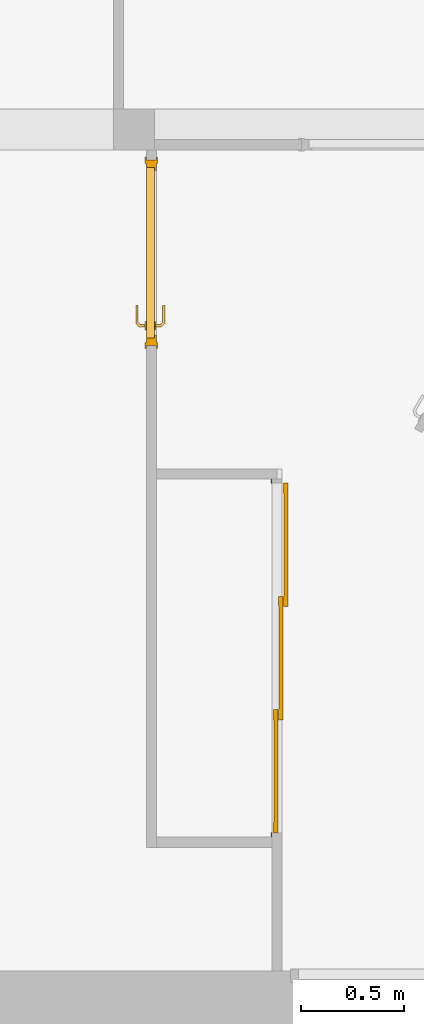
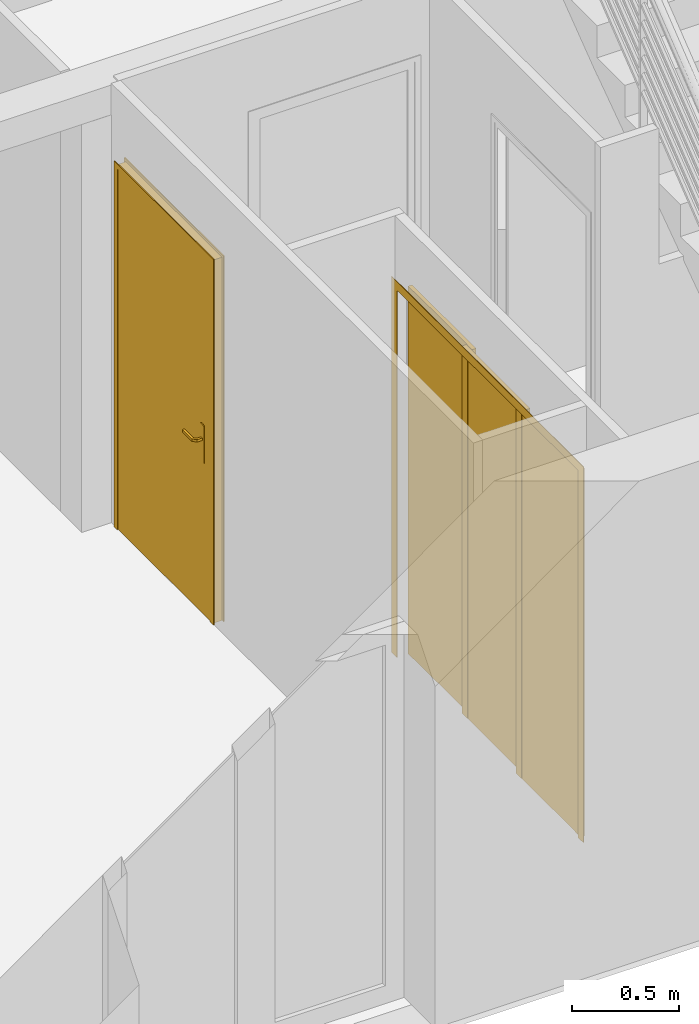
# One storey, part 10 of 13: 2 doors.
"""IFC2X3 building model written with IfcOpenShell, lengths in millimetres."""

from ifc_helpers import new_model, entity, si_unit, converted_unit, direction, frame, origin, origin_with_axes, place, context, project, spatial, faceted_brep, element, save


model = new_model("IFC2X3")

# Units and contexts
model_context = context("Model", 3, precision=1e-05, world=origin(), true_north=direction((0.0, 1.0, 0.0)))
ifc_project = project(units=[si_unit("LENGTHUNIT", "METRE", prefix="MILLI"), si_unit("AREAUNIT", "SQUARE_METRE"), si_unit("VOLUMEUNIT", "CUBIC_METRE"), converted_unit("PLANEANGLEUNIT", "DEGREE", entity("IfcPlaneAngleMeasure", 0.01745), si_unit("PLANEANGLEUNIT", "RADIAN"), dimensions=[0, 0, 0, 0, 0, 0, 0]), si_unit("SOLIDANGLEUNIT", "STERADIAN"), si_unit("MASSUNIT", "GRAM"), si_unit("TIMEUNIT", "SECOND"), si_unit("THERMODYNAMICTEMPERATUREUNIT", "DEGREE_CELSIUS"), si_unit("LUMINOUSINTENSITYUNIT", "LUMEN")], contexts=[model_context])

# Site, building, storey
placement = place(None, origin_with_axes())
site_placement = place(placement, frame((11636.08881703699, 2815.7442167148, 4.768371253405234e-06), z_axis=(0.0, 0.0, 1.0), x_axis=(1.0, 0.0, 0.0)))
site = spatial("IfcSite", under=ifc_project, at=site_placement, Name="Surface", CompositionType="ELEMENT")
building_placement = place(placement, origin_with_axes())
building = spatial("IfcBuilding", under=site, at=building_placement, Name="Default Building", CompositionType="ELEMENT")
storey_placement = place(building_placement, origin_with_axes())
storey = spatial("IfcBuildingStorey", under=building, at=storey_placement, Name="Rez de chaussée", CompositionType="ELEMENT", Elevation=0.0)

# Doors
door_1_placement = place(storey_placement, frame((11636.08881703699, 2815.7442167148, 4.768371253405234e-06), z_axis=(0.0, 0.0, 1.0), x_axis=(1.0, 0.0, 0.0)))
element("IfcDoor", 1, at=door_1_placement, inside=storey, Name="IfcDoor - Int. Simple:PP (0.83m x 2.04m)", context=model_context, shape_type="Brep", body=[
    faceted_brep([(-1651.088818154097, 579.2557809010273, 4.291534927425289e-05), (-1646.088819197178, 549.2557797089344, 4.291534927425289e-05), (-1651.088818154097, 549.2557797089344, 4.291534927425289e-05), (-1646.088819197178, 579.2557809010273, 4.291534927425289e-05), (-1651.088818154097, 1449.255785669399, 4.291534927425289e-05), (-1646.088819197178, 1479.255786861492, 4.291534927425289e-05), (-1646.088819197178, 1449.255785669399, 4.291534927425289e-05), (-1651.088818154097, 1479.255786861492, 4.291534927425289e-05), (-1651.088818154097, 579.2557809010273, 2059.99998569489), (-1646.088819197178, 1449.255785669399, 2059.99998569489), (-1646.088819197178, 579.2557809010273, 2059.99998569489), (-1651.088818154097, 1449.255785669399, 2059.99998569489), (-1646.088819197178, 549.2557797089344, 2089.999957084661), (-1651.088818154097, 1479.255786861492, 2089.999957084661), (-1651.088818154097, 549.2557797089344, 2089.999957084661), (-1646.088819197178, 1479.255786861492, 2089.999957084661), (-1596.08881845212, 579.2557809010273, 2059.99998569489), (-1591.088819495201, 1449.255785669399, 2059.99998569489), (-1591.088819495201, 579.2557809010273, 2059.99998569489), (-1596.08881845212, 1449.255785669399, 2059.99998569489), (-1591.088819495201, 549.2557797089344, 2089.999957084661), (-1596.08881845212, 1479.255786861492, 2089.999957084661), (-1596.08881845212, 549.2557797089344, 2089.999957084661), (-1591.088819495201, 1479.255786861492, 2089.999957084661), (-1596.08881845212, 1479.255786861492, 4.291534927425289e-05), (-1591.088819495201, 1479.255786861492, 4.291534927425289e-05), (-1591.088819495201, 1449.255785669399, 4.291534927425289e-05), (-1596.08881845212, 1449.255785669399, 4.291534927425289e-05), (-1596.08881845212, 579.2557809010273, 4.291534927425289e-05), (-1591.088819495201, 579.2557809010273, 4.291534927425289e-05), (-1591.088819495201, 549.2557797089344, 4.291534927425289e-05), (-1596.08881845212, 549.2557797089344, 4.291534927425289e-05), (-1646.088819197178, 599.2557916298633, 2040.000004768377), (-1606.088819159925, 1429.255774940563, 2040.000004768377), (-1606.088819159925, 599.2557916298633, 2040.000004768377), (-1646.088819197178, 1429.255774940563, 2040.000004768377), (-1606.088819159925, 614.2557773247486, 2025.000019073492), (-1596.08881845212, 1414.255789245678, 2025.000019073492), (-1596.08881845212, 614.2557773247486, 2025.000019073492), (-1606.088819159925, 1414.255789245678, 2025.000019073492), (-1596.08881845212, 564.255795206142, 2074.999971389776), (-1646.088819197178, 1464.255771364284, 2074.999971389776), (-1646.088819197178, 564.255795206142, 2074.999971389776), (-1596.08881845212, 1464.255771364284, 2074.999971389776), (-1606.088819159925, 1429.255774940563, 4.291534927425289e-05), (-1646.088819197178, 1429.255774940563, 4.291534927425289e-05), (-1596.08881845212, 1414.255789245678, 4.291534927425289e-05), (-1606.088819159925, 1414.255789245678, 4.291534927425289e-05), (-1596.08881845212, 1464.255771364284, 4.291534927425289e-05), (-1646.088819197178, 1464.255771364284, 4.291534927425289e-05), (-1646.088819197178, 599.2557916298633, 4.291534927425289e-05), (-1646.088819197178, 564.255795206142, 4.291534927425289e-05), (-1606.088819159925, 599.2557916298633, 4.291534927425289e-05), (-1606.088819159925, 614.2557773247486, 4.291534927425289e-05), (-1596.08881845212, 614.2557773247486, 4.291534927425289e-05), (-1596.08881845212, 564.255795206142, 4.291534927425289e-05), (-1606.088819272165, 599.2557916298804, 2039.999980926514), (-1646.088818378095, 599.2557916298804, 1.907348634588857e-05), (-1606.088819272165, 599.2557916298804, 1.907348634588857e-05), (-1646.088818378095, 599.2557916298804, 2039.999980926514), (-1646.088818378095, 1429.25577494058, 1.907348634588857e-05), (-1606.088819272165, 1429.25577494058, 1.907348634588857e-05), (-1646.088818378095, 1429.25577494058, 2039.999980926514), (-1606.088819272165, 1429.25577494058, 2039.999980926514), (-1563.143627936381, 675.0946902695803, 992.2195583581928), (-1561.118336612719, 717.1981279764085, 992.1213131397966), (-1559.093037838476, 673.4168772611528, 992.2195583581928), (-1555.118331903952, 711.7009871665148, 992.99999922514), (-1567.118333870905, 718.0213035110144, 992.99999922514), (-1563.143627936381, 759.3015656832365, 992.2195583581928), (-1559.093037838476, 759.3015656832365, 992.2195583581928), (-1567.118333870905, 759.3015656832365, 992.99999922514), (-1567.118333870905, 676.7410655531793, 992.99999922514), (-1555.118331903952, 671.7705019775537, 992.99999922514), (-1555.118331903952, 759.3015656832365, 992.99999922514), (-1555.118331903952, 671.7705019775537, 1007.000001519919), (-1555.118331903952, 711.7009890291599, 1007.000001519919), (-1555.118331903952, 759.3015656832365, 1007.000001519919), (-1563.143627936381, 759.3015656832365, 1007.780442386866), (-1561.118336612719, 717.1981279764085, 1007.878685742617), (-1559.093037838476, 759.3015656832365, 1007.780442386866), (-1567.118333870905, 718.0213165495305, 1007.000001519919), (-1563.143627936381, 675.0946902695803, 1007.780442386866), (-1559.093037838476, 673.4168772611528, 1007.780442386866), (-1567.118333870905, 759.3015656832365, 1007.000001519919), (-1567.118333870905, 676.7410655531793, 1007.000001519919), (-1576.957239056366, 661.2810828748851, 992.2195583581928), (-1578.60361247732, 665.2557850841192, 992.99999922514), (-1573.63305076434, 653.2557831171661, 992.99999922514), (-1575.279427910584, 657.2304853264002, 992.2195583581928), (-1573.63305076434, 653.2557831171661, 1007.000001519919), (-1575.279427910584, 657.2304853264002, 1007.780442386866), (-1578.60361247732, 665.2557850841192, 1007.000001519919), (-1576.957239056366, 661.2810828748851, 1007.780442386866), (-1601.088818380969, 661.2810828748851, 992.2195583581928), (-1601.088818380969, 665.2557850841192, 992.99999922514), (-1601.088818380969, 657.2304853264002, 992.2195583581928), (-1601.088818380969, 653.2557831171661, 992.99999922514), (-1601.088818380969, 653.2557831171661, 1007.000001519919), (-1601.088818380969, 657.2304853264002, 1007.780442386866), (-1601.088818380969, 661.2810828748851, 1007.780442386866), (-1601.088818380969, 665.2557850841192, 1007.000001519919), (-1697.116980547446, 759.2744232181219, 992.99999922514), (-1697.116980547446, 671.632994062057, 1007.000001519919), (-1697.116980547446, 759.2744232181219, 1007.000001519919), (-1697.116980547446, 711.56347273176, 992.99999922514), (-1697.116980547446, 671.632994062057, 992.99999922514), (-1689.091684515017, 759.2744232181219, 992.2195583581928), (-1691.116983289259, 717.1158027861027, 992.1213131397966), (-1693.142274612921, 759.2744232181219, 992.2195583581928), (-1685.116978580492, 717.9389894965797, 992.99999922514), (-1689.091684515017, 674.9571804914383, 992.2195583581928), (-1693.142274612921, 673.2793693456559, 992.2195583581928), (-1685.116978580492, 759.2744232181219, 992.99999922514), (-1685.116978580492, 676.6035557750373, 992.99999922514), (-1685.116978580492, 759.2744232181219, 1007.000001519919), (-1685.116978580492, 717.9389894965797, 1007.000001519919), (-1685.116978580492, 676.6035557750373, 1007.000001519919), (-1689.091684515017, 674.9571804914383, 1007.780442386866), (-1691.116975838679, 717.1158027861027, 1007.878685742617), (-1693.142274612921, 673.2793693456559, 1007.780442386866), (-1697.116980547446, 711.5634801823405, 1007.000001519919), (-1689.091684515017, 759.2744232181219, 1007.780442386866), (-1693.142274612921, 759.2744232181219, 1007.780442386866), (-1678.739769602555, 653.2557831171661, 992.99999922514), (-1678.739769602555, 653.2557831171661, 1007.000001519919), (-1677.093396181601, 657.2304853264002, 992.2195583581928), (-1673.769207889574, 665.2557850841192, 992.99999922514), (-1675.415581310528, 661.2810828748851, 992.2195583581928), (-1673.769207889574, 665.2557850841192, 1007.000001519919), (-1675.415581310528, 661.2810828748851, 1007.780442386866), (-1677.093396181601, 657.2304853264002, 1007.780442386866), (-1651.088819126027, 653.2557831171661, 992.99999922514), (-1651.088819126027, 653.2557831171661, 1007.000001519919), (-1651.088819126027, 657.2304853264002, 992.2195583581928), (-1651.088819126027, 661.2810828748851, 992.2195583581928), (-1651.088819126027, 665.2557850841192, 992.99999922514), (-1651.088819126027, 665.2557850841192, 1007.000001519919), (-1651.088819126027, 661.2810828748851, 1007.780442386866), (-1651.088819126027, 657.2304853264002, 1007.780442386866), (-1601.088818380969, 679.2557836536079, 870.0000032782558), (-1606.088819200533, 679.2557836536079, 1079.999996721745), (-1601.088818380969, 679.2557836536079, 1079.999996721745), (-1606.088819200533, 679.2557836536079, 870.0000032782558), (-1606.088819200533, 669.6085446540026, 866.0039812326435), (-1601.088818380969, 669.6085446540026, 866.0039812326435), (-1601.088818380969, 659.2557841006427, 864.6410167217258), (-1606.088819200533, 659.2557841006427, 864.6410167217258), (-1601.088818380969, 648.9030198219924, 866.0039812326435), (-1606.088819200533, 648.9030198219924, 866.0039812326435), (-1601.088818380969, 639.2557845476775, 870.0000032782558), (-1606.088819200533, 639.2557845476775, 870.0000032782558), (-1606.088819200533, 639.2557845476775, 1079.999996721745), (-1601.088818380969, 639.2557845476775, 1079.999996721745), (-1606.088819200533, 648.9030198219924, 1083.996018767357), (-1601.088818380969, 648.9030198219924, 1083.996018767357), (-1601.088818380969, 659.2557841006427, 1085.358983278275), (-1606.088819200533, 659.2557841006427, 1085.358983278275), (-1601.088818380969, 669.6085446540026, 1083.996018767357), (-1606.088819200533, 669.6085446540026, 1083.996018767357), (-1646.088818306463, 639.2557845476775, 870.0000032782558), (-1651.088819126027, 639.2557845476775, 1079.999996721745), (-1651.088819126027, 639.2557845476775, 870.0000032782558), (-1646.088818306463, 639.2557845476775, 1079.999996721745), (-1651.088819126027, 648.9030198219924, 1083.996018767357), (-1646.088818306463, 648.9030198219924, 1083.996018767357), (-1646.088818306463, 659.2557841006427, 1085.358983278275), (-1651.088819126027, 659.2557841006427, 1085.358983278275), (-1646.088818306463, 669.6085446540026, 1083.996018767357), (-1651.088819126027, 669.6085446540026, 1083.996018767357), (-1646.088818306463, 679.2557836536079, 1079.999996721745), (-1651.088819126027, 679.2557836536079, 1079.999996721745), (-1646.088818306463, 679.2557836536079, 870.0000032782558), (-1651.088819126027, 679.2557836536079, 870.0000032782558), (-1651.088819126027, 669.6085446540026, 866.0039812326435), (-1646.088818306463, 669.6085446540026, 866.0039812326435), (-1646.088818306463, 659.2557841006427, 864.6410167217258), (-1651.088819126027, 659.2557841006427, 864.6410167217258), (-1646.088818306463, 648.9030198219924, 866.0039812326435), (-1651.088819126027, 648.9030198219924, 866.0039812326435)], [[[0, 1, 2]], [[0, 3, 1]], [[4, 5, 6]], [[4, 7, 5]], [[8, 9, 10]], [[8, 11, 9]], [[12, 13, 14]], [[12, 15, 13]], [[15, 7, 13]], [[15, 5, 7]], [[11, 6, 9]], [[11, 4, 6]], [[0, 10, 3]], [[0, 8, 10]], [[12, 10, 15]], [[1, 10, 12]], [[10, 1, 3]], [[9, 15, 10]], [[6, 15, 9]], [[15, 6, 5]], [[1, 14, 2]], [[1, 12, 14]], [[13, 11, 14]], [[7, 11, 13]], [[11, 7, 4]], [[8, 14, 11]], [[0, 14, 8]], [[14, 0, 2]], [[16, 17, 18]], [[16, 19, 17]], [[20, 21, 22]], [[20, 23, 21]], [[23, 24, 21]], [[23, 25, 24]], [[19, 26, 17]], [[19, 27, 26]], [[27, 25, 26]], [[27, 24, 25]], [[28, 18, 29]], [[28, 16, 18]], [[20, 18, 23]], [[30, 18, 20]], [[18, 30, 29]], [[17, 23, 18]], [[26, 23, 17]], [[23, 26, 25]], [[30, 22, 31]], [[30, 20, 22]], [[21, 19, 22]], [[24, 19, 21]], [[19, 24, 27]], [[16, 22, 19]], [[28, 22, 16]], [[22, 28, 31]], [[28, 30, 31]], [[28, 29, 30]], [[32, 33, 34]], [[32, 35, 33]], [[36, 37, 38]], [[36, 39, 37]], [[40, 41, 42]], [[40, 43, 41]], [[35, 44, 33]], [[35, 45, 44]], [[39, 46, 37]], [[39, 47, 46]], [[47, 48, 46]], [[44, 48, 47]], [[45, 48, 44]], [[48, 45, 49]], [[43, 49, 41]], [[43, 48, 49]], [[41, 35, 42]], [[49, 35, 41]], [[35, 49, 45]], [[32, 42, 35]], [[50, 42, 32]], [[42, 50, 51]], [[50, 34, 52]], [[50, 32, 34]], [[33, 39, 34]], [[44, 39, 33]], [[39, 44, 47]], [[36, 34, 39]], [[53, 34, 36]], [[34, 53, 52]], [[53, 38, 54]], [[53, 36, 38]], [[40, 38, 43]], [[55, 38, 40]], [[38, 55, 54]], [[37, 43, 38]], [[46, 43, 37]], [[43, 46, 48]], [[55, 42, 51]], [[55, 40, 42]], [[54, 52, 53]], [[55, 52, 54]], [[55, 50, 52]], [[50, 55, 51]], [[56, 57, 58]], [[56, 59, 57]], [[58, 60, 61]], [[58, 57, 60]], [[61, 62, 63]], [[61, 60, 62]], [[63, 59, 56]], [[63, 62, 59]], [[59, 60, 57]], [[59, 62, 60]], [[56, 61, 63]], [[56, 58, 61]], [[64, 65, 66]], [[65, 67, 66]], [[65, 68, 69]], [[65, 69, 70]], [[71, 69, 68]], [[68, 64, 72]], [[64, 68, 65]], [[67, 73, 66]], [[67, 70, 74]], [[65, 70, 67]], [[67, 75, 73]], [[74, 75, 67]], [[74, 76, 75]], [[76, 74, 77]], [[78, 79, 80]], [[79, 81, 82]], [[79, 82, 83]], [[79, 83, 76]], [[76, 83, 75]], [[80, 76, 77]], [[78, 84, 81]], [[82, 81, 85]], [[80, 79, 76]], [[79, 78, 81]], [[84, 72, 85]], [[84, 68, 72]], [[68, 84, 71]], [[70, 77, 74]], [[70, 80, 77]], [[69, 80, 70]], [[69, 78, 80]], [[69, 84, 78]], [[84, 69, 71]], [[86, 72, 64]], [[86, 87, 72]], [[88, 66, 73]], [[88, 89, 66]], [[73, 90, 88]], [[73, 75, 90]], [[90, 83, 91]], [[90, 75, 83]], [[92, 82, 85]], [[92, 93, 82]], [[85, 87, 92]], [[85, 72, 87]], [[94, 87, 86]], [[94, 95, 87]], [[66, 86, 64]], [[86, 66, 89]], [[89, 94, 86]], [[94, 89, 96]], [[97, 89, 88]], [[97, 96, 89]], [[90, 97, 88]], [[90, 98, 97]], [[98, 91, 99]], [[98, 90, 91]], [[91, 100, 99]], [[91, 93, 100]], [[83, 93, 91]], [[93, 83, 82]], [[100, 92, 101]], [[100, 93, 92]], [[92, 95, 101]], [[92, 87, 95]], [[98, 96, 97]], [[99, 96, 98]], [[99, 94, 96]], [[100, 94, 99]], [[100, 95, 94]], [[95, 100, 101]], [[102, 103, 104]], [[105, 103, 102]], [[103, 105, 106]], [[107, 108, 109]], [[108, 110, 111]], [[108, 111, 112]], [[108, 112, 105]], [[105, 112, 106]], [[109, 105, 102]], [[107, 113, 110]], [[111, 110, 114]], [[109, 108, 105]], [[108, 107, 110]], [[115, 114, 113]], [[116, 114, 115]], [[114, 116, 117]], [[118, 119, 120]], [[119, 121, 120]], [[119, 116, 122]], [[119, 122, 123]], [[115, 122, 116]], [[116, 118, 117]], [[118, 116, 119]], [[121, 103, 120]], [[121, 123, 104]], [[119, 123, 121]], [[113, 122, 115]], [[107, 122, 113]], [[107, 123, 122]], [[109, 123, 107]], [[109, 104, 123]], [[104, 109, 102]], [[103, 124, 125]], [[103, 106, 124]], [[126, 106, 112]], [[126, 124, 106]], [[127, 111, 114]], [[127, 128, 111]], [[114, 129, 127]], [[114, 117, 129]], [[130, 117, 118]], [[130, 129, 117]], [[125, 120, 103]], [[125, 131, 120]], [[125, 132, 133]], [[125, 124, 132]], [[132, 126, 134]], [[132, 124, 126]], [[126, 128, 134]], [[112, 128, 126]], [[128, 112, 111]], [[134, 128, 135]], [[135, 127, 136]], [[135, 128, 127]], [[127, 137, 136]], [[127, 129, 137]], [[138, 129, 130]], [[138, 137, 129]], [[120, 130, 118]], [[131, 130, 120]], [[131, 138, 130]], [[138, 131, 139]], [[133, 131, 125]], [[133, 139, 131]], [[134, 133, 132]], [[134, 139, 133]], [[135, 139, 134]], [[135, 138, 139]], [[135, 137, 138]], [[137, 135, 136]], [[140, 141, 142]], [[140, 143, 141]], [[144, 140, 145]], [[144, 143, 140]], [[144, 146, 147]], [[144, 145, 146]], [[147, 148, 149]], [[147, 146, 148]], [[149, 150, 151]], [[149, 148, 150]], [[150, 152, 151]], [[150, 153, 152]], [[154, 153, 155]], [[154, 152, 153]], [[154, 156, 157]], [[154, 155, 156]], [[157, 158, 159]], [[157, 156, 158]], [[159, 142, 141]], [[159, 158, 142]], [[146, 150, 148]], [[146, 153, 150]], [[145, 153, 146]], [[145, 155, 153]], [[140, 155, 145]], [[140, 156, 155]], [[140, 158, 156]], [[158, 140, 142]], [[159, 154, 157]], [[141, 154, 159]], [[141, 152, 154]], [[141, 151, 152]], [[143, 151, 141]], [[144, 151, 143]], [[144, 149, 151]], [[149, 144, 147]], [[160, 161, 162]], [[160, 163, 161]], [[164, 163, 165]], [[164, 161, 163]], [[164, 166, 167]], [[164, 165, 166]], [[167, 168, 169]], [[167, 166, 168]], [[169, 170, 171]], [[169, 168, 170]], [[172, 171, 170]], [[172, 173, 171]], [[174, 172, 175]], [[174, 173, 172]], [[174, 176, 177]], [[174, 175, 176]], [[177, 178, 179]], [[177, 176, 178]], [[179, 160, 162]], [[179, 178, 160]], [[175, 178, 176]], [[172, 178, 175]], [[172, 160, 178]], [[170, 160, 172]], [[170, 163, 160]], [[168, 163, 170]], [[168, 165, 163]], [[165, 168, 166]], [[169, 164, 167]], [[171, 164, 169]], [[171, 161, 164]], [[171, 162, 161]], [[173, 162, 171]], [[174, 162, 173]], [[174, 179, 162]], [[179, 174, 177]]]),
])
door_2_placement = place(storey_placement, frame((11636.08881703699, 2815.7442167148, 4.768371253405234e-06), z_axis=(0.0, 0.0, 1.0), x_axis=(1.0, 0.0, 0.0)))
element("IfcDoor", 2, at=door_2_placement, inside=storey, Name="IfcDoor - Placard coulissante - 3 panneaux:Placard coulissante - 3 panneaux", context=model_context, shape_type="Brep", body=[
    faceted_brep([(-1001.088818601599, -1255.744228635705, 2099.999952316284), (-981.0888190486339, -655.7442047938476, 2099.999952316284), (-1001.088818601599, -655.7442047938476, 2099.999952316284), (-981.0888190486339, -1255.744228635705, 2099.999952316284), (-1001.088818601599, -655.7442047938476, 4.768371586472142e-05), (-981.0888190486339, -1255.744228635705, 4.768371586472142e-05), (-1001.088818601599, -1255.744228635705, 4.768371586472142e-05), (-981.0888190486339, -655.7442047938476, 4.768371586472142e-05), (-956.088818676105, -705.7442167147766, 2099.999952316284), (-976.0888191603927, -105.7441928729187, 2099.999952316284), (-976.0888191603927, -705.7442167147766, 2099.999952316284), (-956.088818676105, -105.7441928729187, 2099.999952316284), (-976.0888191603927, -705.7442167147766, 4.768371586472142e-05), (-956.088818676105, -105.7441928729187, 4.768371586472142e-05), (-956.088818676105, -705.7442167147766, 4.768371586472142e-05), (-976.0888191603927, -105.7441928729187, 4.768371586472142e-05), (-1026.088818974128, -1805.744240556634, 2099.999952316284), (-1006.08881848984, -1205.744216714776, 2099.999952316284), (-1026.088818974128, -1205.744216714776, 2099.999952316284), (-1006.08881848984, -1805.744240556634, 2099.999952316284), (-1026.088818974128, -1205.744216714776, 4.768371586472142e-05), (-1006.08881848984, -1805.744240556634, 4.768371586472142e-05), (-1026.088818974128, -1805.744240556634, 4.768371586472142e-05), (-1006.08881848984, -1205.744216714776, 4.768371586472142e-05), (-1036.088818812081, -1853.744218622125, 2148.000000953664), (-1036.088818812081, -1803.744206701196, 2098.00004863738), (-1036.088818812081, -57.74421480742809, 2148.000000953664), (-1036.088818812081, -1853.744218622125, -9.536846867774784e-07), (-1036.088818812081, -1803.744206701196, -9.536846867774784e-07), (-1036.088818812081, -107.744226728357, 2098.00004863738), (-1036.088818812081, -107.744226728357, -9.536846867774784e-07), (-1036.088818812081, -57.74421480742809, -9.536846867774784e-07), (-1039.088818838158, -57.74421480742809, 2148.000000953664), (-1039.088818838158, -107.744226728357, 2098.00004863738), (-1039.088818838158, -1853.744218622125, 2148.000000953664), (-1039.088818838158, -57.74421480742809, -9.536846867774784e-07), (-1039.088818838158, -107.744226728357, -9.536846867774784e-07), (-1039.088818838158, -1803.744206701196, 2098.00004863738), (-1039.088818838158, -1803.744206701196, -9.536846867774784e-07), (-1039.088818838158, -1853.744218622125, -9.536846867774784e-07), (-976.0888182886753, -155.7442047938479, 2099.999952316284), (-976.0888182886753, -105.7441928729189, 2099.999952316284), (-978.0888186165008, -155.7442047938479, 2099.999952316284), (-978.0888186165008, -105.7441928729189, 2099.999952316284), (-976.0888182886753, -155.7442047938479, 4.768371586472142e-05), (-978.0888186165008, -155.7442047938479, 4.768371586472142e-05), (-976.0888182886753, -105.7441928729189, 4.768371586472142e-05), (-978.0888186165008, -105.7441928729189, 4.768371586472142e-05), (-976.0888182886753, -705.7442167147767, 2099.999952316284), (-976.0888182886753, -655.7442047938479, 2099.999952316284), (-978.0888186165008, -705.7442167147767, 2099.999952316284), (-978.0888186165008, -655.7442047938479, 2099.999952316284), (-976.0888182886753, -705.7442167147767, 4.768371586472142e-05), (-978.0888186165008, -705.7442167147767, 4.768371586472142e-05), (-976.0888182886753, -655.7442047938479, 4.768371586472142e-05), (-978.0888186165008, -655.7442047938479, 4.768371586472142e-05), (-1001.08881877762, -705.7442167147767, 2099.999952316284), (-1001.08881877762, -655.7442047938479, 2099.999952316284), (-1003.088818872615, -705.7442167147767, 2099.999952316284), (-1003.088818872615, -655.7442047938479, 2099.999952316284), (-1001.08881877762, -705.7442167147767, 4.768371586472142e-05), (-1003.088818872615, -705.7442167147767, 4.768371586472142e-05), (-1001.08881877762, -655.7442047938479, 4.768371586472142e-05), (-1003.088818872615, -655.7442047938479, 4.768371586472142e-05), (-1001.08881877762, -1255.744228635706, 2099.999952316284), (-1001.08881877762, -1205.744216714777, 2099.999952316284), (-1003.088818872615, -1255.744228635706, 2099.999952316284), (-1003.088818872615, -1205.744216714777, 2099.999952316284), (-1001.08881877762, -1255.744228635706, 4.768371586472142e-05), (-1003.088818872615, -1255.744228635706, 4.768371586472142e-05), (-1001.08881877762, -1205.744216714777, 4.768371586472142e-05), (-1003.088818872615, -1205.744216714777, 4.768371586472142e-05), (-1026.088819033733, -1255.744228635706, 2099.999952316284), (-1026.088819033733, -1205.744216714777, 2099.999952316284), (-1028.088819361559, -1255.744228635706, 2099.999952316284), (-1028.088819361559, -1205.744216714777, 2099.999952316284), (-1026.088819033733, -1255.744228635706, 4.768371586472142e-05), (-1028.088819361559, -1255.744228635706, 4.768371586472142e-05), (-1026.088819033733, -1205.744216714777, 4.768371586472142e-05), (-1028.088819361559, -1205.744216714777, 4.768371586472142e-05), (-1026.088819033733, -1805.744240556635, 2099.999952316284), (-1026.088819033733, -1755.744228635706, 2099.999952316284), (-1028.088819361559, -1805.744240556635, 2099.999952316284), (-1028.088819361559, -1755.744228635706, 2099.999952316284), (-1026.088819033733, -1805.744240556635, 4.768371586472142e-05), (-1028.088819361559, -1805.744240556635, 4.768371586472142e-05), (-1026.088819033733, -1755.744228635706, 4.768371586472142e-05), (-1028.088819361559, -1755.744228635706, 4.768371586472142e-05)], [[[0, 1, 2]], [[0, 3, 1]], [[4, 5, 6]], [[4, 7, 5]], [[3, 6, 5]], [[3, 0, 6]], [[1, 5, 7]], [[1, 3, 5]], [[2, 7, 4]], [[2, 1, 7]], [[0, 4, 6]], [[0, 2, 4]], [[8, 9, 10]], [[8, 11, 9]], [[12, 13, 14]], [[12, 15, 13]], [[11, 14, 13]], [[11, 8, 14]], [[9, 13, 15]], [[9, 11, 13]], [[10, 15, 12]], [[10, 9, 15]], [[8, 12, 14]], [[8, 10, 12]], [[16, 17, 18]], [[16, 19, 17]], [[20, 21, 22]], [[20, 23, 21]], [[19, 22, 21]], [[19, 16, 22]], [[17, 21, 23]], [[17, 19, 21]], [[18, 23, 20]], [[18, 17, 23]], [[16, 20, 22]], [[16, 18, 20]], [[24, 25, 26]], [[27, 25, 24]], [[25, 27, 28]], [[29, 26, 25]], [[30, 26, 29]], [[26, 30, 31]], [[32, 33, 34]], [[35, 33, 32]], [[33, 35, 36]], [[37, 34, 33]], [[38, 34, 37]], [[34, 38, 39]], [[26, 35, 32]], [[26, 31, 35]], [[24, 32, 34]], [[24, 26, 32]], [[27, 34, 39]], [[27, 24, 34]], [[28, 39, 38]], [[28, 27, 39]], [[25, 38, 37]], [[25, 28, 38]], [[29, 37, 33]], [[29, 25, 37]], [[30, 33, 36]], [[30, 29, 33]], [[31, 36, 35]], [[31, 30, 36]], [[40, 41, 42]], [[43, 42, 41]], [[44, 45, 46]], [[47, 46, 45]], [[43, 47, 42]], [[45, 42, 47]], [[41, 44, 46]], [[41, 40, 44]], [[43, 46, 47]], [[43, 41, 46]], [[40, 45, 44]], [[40, 42, 45]], [[48, 49, 50]], [[51, 50, 49]], [[52, 53, 54]], [[55, 54, 53]], [[51, 55, 50]], [[53, 50, 55]], [[49, 52, 54]], [[49, 48, 52]], [[51, 54, 55]], [[51, 49, 54]], [[48, 53, 52]], [[48, 50, 53]], [[56, 57, 58]], [[59, 58, 57]], [[60, 61, 62]], [[63, 62, 61]], [[59, 63, 58]], [[61, 58, 63]], [[57, 60, 62]], [[57, 56, 60]], [[59, 62, 63]], [[59, 57, 62]], [[56, 61, 60]], [[56, 58, 61]], [[64, 65, 66]], [[67, 66, 65]], [[68, 69, 70]], [[71, 70, 69]], [[67, 71, 66]], [[69, 66, 71]], [[65, 68, 70]], [[65, 64, 68]], [[67, 70, 71]], [[67, 65, 70]], [[64, 69, 68]], [[64, 66, 69]], [[72, 73, 74]], [[75, 74, 73]], [[76, 77, 78]], [[79, 78, 77]], [[75, 79, 74]], [[77, 74, 79]], [[73, 76, 78]], [[73, 72, 76]], [[75, 78, 79]], [[75, 73, 78]], [[72, 77, 76]], [[72, 74, 77]], [[80, 81, 82]], [[83, 82, 81]], [[84, 85, 86]], [[87, 86, 85]], [[83, 87, 82]], [[85, 82, 87]], [[81, 84, 86]], [[81, 80, 84]], [[83, 86, 87]], [[83, 81, 86]], [[80, 85, 84]], [[80, 82, 85]]]),
])

save(model, "model.ifc")
